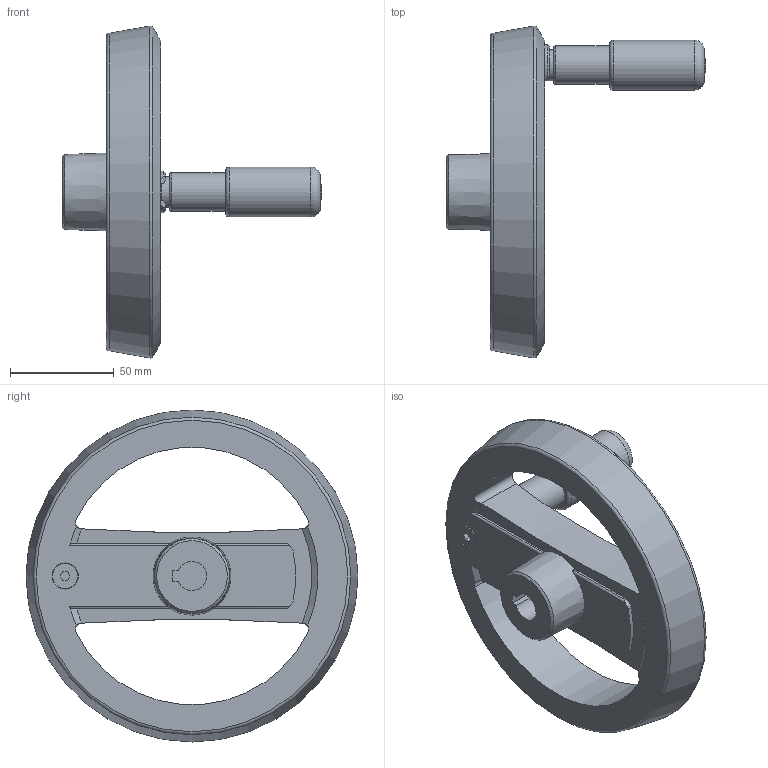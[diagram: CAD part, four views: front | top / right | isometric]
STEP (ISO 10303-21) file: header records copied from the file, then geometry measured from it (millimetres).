
FILE_DESCRIPTION( ( 'STEP AP203' ), '1' );
FILE_NAME( 'C:/Temp/Ganter_Step_05_03_2020/data/1_3/gn_924_7/gn_924_7_k/Handwheel with retractable handle GN 924.7-160-K14-R-SW (activated).stp', '2020-03-05T10:42:03', ( 'License CC BY-ND 4.0' ), ( 'CADENAS' ), ' ', 'PARTsolutions', ' ' );
FILE_SCHEMA( ( 'CONFIG_CONTROL_DESIGN' ) );
Length unit declared in the file: millimetre
Products named in the file (3): Handwheel with retractable handle GN 924.7-160-K14-R-SW (activated); _Umleggriff-Handrad GN 924.7-160-K14-R-SW-1; _Umleggriff-Handrad GN 924.7-160-K14-R-SW (90)-2
Assembly tree (2 placements, depth 2):
  Handwheel with retractable handle GN 924.7-160-K14-R-SW (activated)
    _Umleggriff-Handrad GN 924.7-160-K14-R-SW-1
    _Umleggriff-Handrad GN 924.7-160-K14-R-SW (90)-2
Bounding box: 124.7 x 159.68 x 159.68 mm (x, y, z)
Volume: 294998.9 mm3; surface area: 66272.5 mm2
Topology: 2 solids, 2 shells, 109 faces, 281 edges, 181 vertices
Faces by surface type: plane 45, cylinder 42, cone 12, torus 8, sphere 2
Full cylindrical faces by diameter (mm): 4 x4, 5 x1, 8 x1, 12 x1, 15 x1, 18.5 x1, 20 x1, 24 x1, 25 x1, 26.6 x1
Entity records: 3602 total; most frequent: CARTESIAN_POINT 999, DIRECTION 518, ORIENTED_EDGE 486, EDGE_CURVE 243, AXIS2_PLACEMENT_3D 214, VERTEX_POINT 175, EDGE_LOOP 151, FACE_OUTER_BOUND 129
